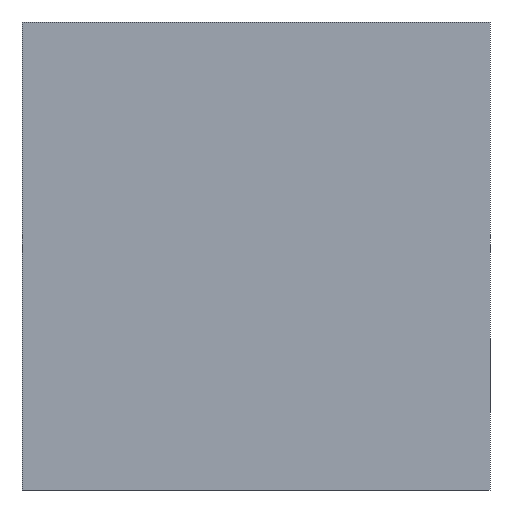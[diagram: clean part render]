
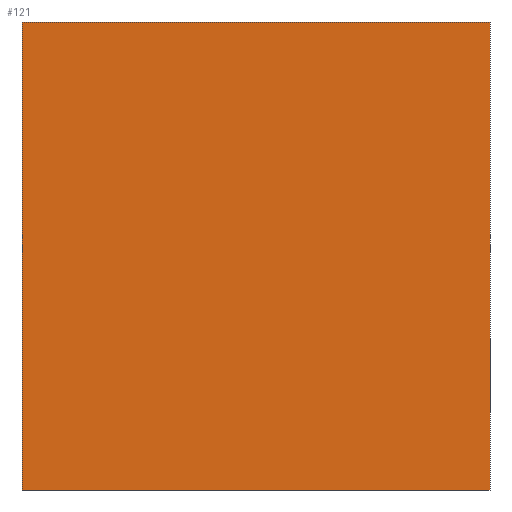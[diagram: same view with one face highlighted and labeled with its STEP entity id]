
A CAD part, front view. The second image highlights one B-rep face of the part: STEP entity #121.
In plain terms, the highlighted planar face has unit normal (0, -1, 0).
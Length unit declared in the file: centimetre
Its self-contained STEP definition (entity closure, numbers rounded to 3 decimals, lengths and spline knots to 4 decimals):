
#8 = VECTOR ( 'NONE', #362, 100. ) ;
#36 = ORIENTED_EDGE ( 'NONE', *, *, #399, .F. ) ;
#47 = CARTESIAN_POINT ( 'NONE',  ( 0., 0., 1000. ) ) ;
#61 = PLANE ( 'NONE',  #199 ) ;
#72 = CARTESIAN_POINT ( 'NONE',  ( 1000., 0., 1000. ) ) ;
#75 = VECTOR ( 'NONE', #251, 100. ) ;
#88 = DIRECTION ( 'NONE',  ( 0., 1., 0. ) ) ;
#121 = ADVANCED_FACE ( 'NONE', ( #217 ), #61, .F. ) ;
#131 = EDGE_CURVE ( 'NONE', #207, #325, #192, .T. ) ;
#138 = DIRECTION ( 'NONE',  ( 0., 0., -1. ) ) ;
#171 = LINE ( 'NONE', #72, #194 ) ;
#185 = CARTESIAN_POINT ( 'NONE',  ( 0., 0., 1000. ) ) ;
#192 = LINE ( 'NONE', #321, #8 ) ;
#194 = VECTOR ( 'NONE', #138, 100. ) ;
#199 = AXIS2_PLACEMENT_3D ( 'NONE', #185, #88, #324 ) ;
#202 = EDGE_CURVE ( 'NONE', #430, #428, #224, .T. ) ;
#207 = VERTEX_POINT ( 'NONE', #47 ) ;
#217 = FACE_OUTER_BOUND ( 'NONE', #415, .T. ) ;
#224 = LINE ( 'NONE', #285, #75 ) ;
#240 = ORIENTED_EDGE ( 'NONE', *, *, #441, .T. ) ;
#251 = DIRECTION ( 'NONE',  ( 1., 0., 0. ) ) ;
#285 = CARTESIAN_POINT ( 'NONE',  ( 0., 0., 0. ) ) ;
#290 = DIRECTION ( 'NONE',  ( 0., 0., -1. ) ) ;
#317 = CARTESIAN_POINT ( 'NONE',  ( 1000., 0., 0. ) ) ;
#320 = ORIENTED_EDGE ( 'NONE', *, *, #131, .F. ) ;
#321 = CARTESIAN_POINT ( 'NONE',  ( 0., 0., 1000. ) ) ;
#322 = CARTESIAN_POINT ( 'NONE',  ( 0., 0., 0. ) ) ;
#324 = DIRECTION ( 'NONE',  ( 0., 0., 1. ) ) ;
#325 = VERTEX_POINT ( 'NONE', #414 ) ;
#362 = DIRECTION ( 'NONE',  ( 1., 0., 0. ) ) ;
#382 = ORIENTED_EDGE ( 'NONE', *, *, #202, .T. ) ;
#399 = EDGE_CURVE ( 'NONE', #325, #428, #171, .T. ) ;
#414 = CARTESIAN_POINT ( 'NONE',  ( 1000., 0., 1000. ) ) ;
#415 = EDGE_LOOP ( 'NONE', ( #382, #36, #320, #240 ) ) ;
#428 = VERTEX_POINT ( 'NONE', #317 ) ;
#430 = VERTEX_POINT ( 'NONE', #322 ) ;
#432 = CARTESIAN_POINT ( 'NONE',  ( 0., 0., 1000. ) ) ;
#437 = LINE ( 'NONE', #432, #440 ) ;
#440 = VECTOR ( 'NONE', #290, 100. ) ;
#441 = EDGE_CURVE ( 'NONE', #207, #430, #437, .T. ) ;
